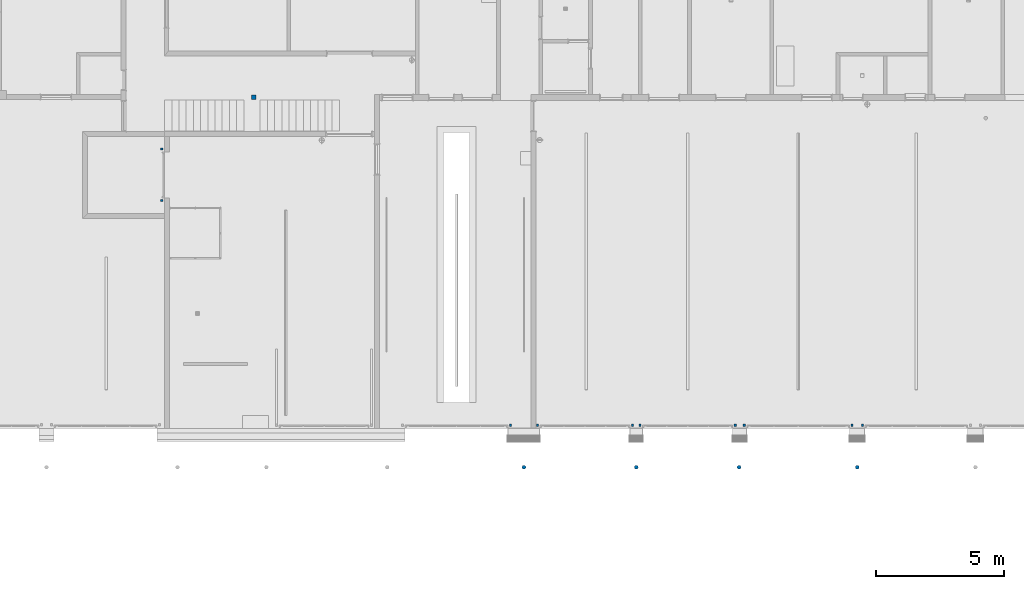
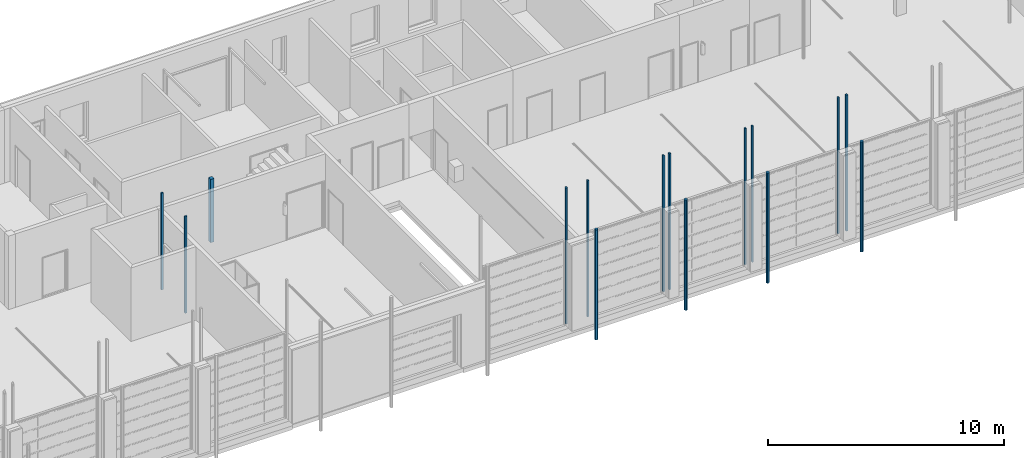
# One storey, part 4 of 112: 15 columns.
"""IFC2X3 building model written with IfcOpenShell, lengths in millimetres."""

from ifc_helpers import new_model, entity, si_unit, converted_unit, derived_unit, money_unit, direction, frame, origin_with_axes, origin_2d_with_axis, place, context, subcontext, project, spatial, rectangle, circle, extrude, material, type_object, element, save


model = new_model("IFC2X3")

# Units and contexts
model_context = context("Model", 3, precision=0.01, world=origin_with_axes(), true_north=direction((0.0, 1.0)))
body_context = subcontext(model_context, "Body", "Model", "MODEL_VIEW")
ifc_project = project(units=[si_unit("LENGTHUNIT", "METRE", prefix="MILLI"), si_unit("AREAUNIT", "SQUARE_METRE"), si_unit("VOLUMEUNIT", "CUBIC_METRE"), converted_unit("PLANEANGLEUNIT", "DEGREE", entity("IfcPlaneAngleMeasure", 0.0174532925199), si_unit("PLANEANGLEUNIT", "RADIAN"), dimensions=[0, 0, 0, 0, 0, 0, 0]), si_unit("SOLIDANGLEUNIT", "STERADIAN"), money_unit("EUR"), converted_unit("TIMEUNIT", "Year", entity("IfcTimeMeasure", 31556926.0), si_unit("TIMEUNIT", "SECOND"), dimensions=[0, 0, 1, 0, 0, 0, 0]), si_unit("MASSUNIT", "GRAM", prefix="KILO"), si_unit("THERMODYNAMICTEMPERATUREUNIT", "DEGREE_CELSIUS"), si_unit("LUMINOUSINTENSITYUNIT", "LUMEN"), si_unit("ENERGYUNIT", "JOULE", prefix="MEGA"), derived_unit("THERMALCONDUCTANCEUNIT", [(si_unit("POWERUNIT", "WATT"), 1), (si_unit("LENGTHUNIT", "METRE"), -1), (si_unit("THERMODYNAMICTEMPERATUREUNIT", "KELVIN"), -1)]), derived_unit("SPECIFICHEATCAPACITYUNIT", [(si_unit("ENERGYUNIT", "JOULE"), 1), (si_unit("MASSUNIT", "GRAM", prefix="KILO"), -1), (si_unit("THERMODYNAMICTEMPERATUREUNIT", "KELVIN"), -1)]), derived_unit("MASSDENSITYUNIT", [(si_unit("MASSUNIT", "GRAM", prefix="KILO"), 1), (si_unit("VOLUMEUNIT", "CUBIC_METRE"), -1)])], contexts=[model_context])

# Site, building, storey
site_placement = place(None, origin_with_axes())
site = spatial("IfcSite", under=ifc_project, at=site_placement, Name="Politse- ja Piirivalveameti ning Päästeameti ühishoone", CompositionType="ELEMENT")
building_placement = place(site_placement, origin_with_axes())
building = spatial("IfcBuilding", under=site, at=building_placement, Name="Politse- ja Piirivalveameti ning Päästeameti ühishoone", CompositionType="ELEMENT")
storey_placement = place(building_placement, origin_with_axes())
storey = spatial("IfcBuildingStorey", under=building, at=storey_placement, Name="Esimene korrus", CompositionType="ELEMENT", Elevation=0.0)

# Columns
ifc_material_1 = material(Name="KON-00_GENEERILINE - KONSTRUKTSIOON")
column_type_1 = type_object("IfcColumnType", Name="KON-00_GENEERILINE - KONSTRUKTSIOON D150", PredefinedType="COLUMN")
for number, where, z_axis, x_axis, name in (
    (1, (45360.5308285, -1510.44069478, 0.0), (0.0, 0.0, 1.0), (1.0, 0.0, 0.0), "POST"),
    (2, (40760.5238007, -1510.44069478, 0.0), (0.0, 0.0, 1.0), (1.0, 0.0, 0.0), "POST"),
    (3, (36760.117689, -1510.44069478, 0.0), (0.0, 0.0, 1.0), (1.0, 0.0, 0.0), "POST"),
    (4, (32384.9985258, -1510.44069478, 0.0), (0.0, 0.0, 1.0), (1.0, 0.0, 0.0), "POST"),
):
    element("IfcColumn", number, at=place(storey_placement, frame(where, z_axis=z_axis, x_axis=x_axis)), inside=storey, type_object=column_type_1, material=ifc_material_1, Name=name, ObjectType="COLUMN", context=body_context, shape_type="SweptSolid", body=[
        extrude(circle(Radius=75.0, at=origin_2d_with_axis()), origin_with_axes(), (0.0, 0.0, 1.0), 5700.0),
    ])
ifc_material_2 = material(Name="ET-02_Raudbetoon - Toode")
column_type_2 = type_object("IfcColumnType", Name="ET-02_Raudbetoon - Toode 180 x 180", PredefinedType="COLUMN")
column_1_placement = place(storey_placement, frame((21870.0260395, 12894.9721217, 0.0), z_axis=(0.0, 0.0, 1.0), x_axis=(1.0, 0.0, 0.0)))
element("IfcColumn", 5, at=column_1_placement, inside=storey, type_object=column_type_2, material=ifc_material_2, Name="POST", ObjectType="COLUMN", context=body_context, shape_type="SweptSolid", body=[
    extrude(rectangle(XDim=180.004972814, YDim=180.000024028, at=origin_2d_with_axis()), origin_with_axes(), (0.0, 0.0, 1.0), 3280.0),
])
column_type_3 = type_object("IfcColumnType", Name="KON-00_GENEERILINE - KONSTRUKTSIOON 80 x 100", PredefinedType="COLUMN")
for number, where, z_axis, x_axis, name in (
    (6, (31859.7054661, 130.739431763, 0.0), (0.0, 0.0, 1.0), (1.0, 0.0, 0.0), "POST"),
    (7, (32909.505347, 130.739431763, 0.0), (0.0, 0.0, 1.0), (1.0, 0.0, 0.0), "POST"),
    (8, (36609.7115773, 130.739431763, 0.0), (0.0, 0.0, 1.0), (1.0, 0.0, 0.0), "POST"),
    (9, (40960.3210844, 130.739431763, 0.0), (0.0, 0.0, 1.0), (1.0, 0.0, 0.0), "POST"),
    (10, (45160.5273146, 130.739431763, 0.0), (0.0, 0.0, 1.0), (1.0, 0.0, 0.0), "POST"),
    (11, (36909.9114587, 130.739431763, 0.0), (0.0, 0.0, 1.0), (1.0, 0.0, 0.0), "POST"),
    (12, (40610.117689, 130.739431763, 0.0), (0.0, 0.0, 1.0), (1.0, 0.0, 0.0), "POST"),
    (13, (45560.3281121, 130.739431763, 0.0), (0.0, 0.0, 1.0), (1.0, 0.0, 0.0), "POST"),
):
    element("IfcColumn", number, at=place(storey_placement, frame(where, z_axis=z_axis, x_axis=x_axis)), inside=storey, type_object=column_type_3, material=ifc_material_1, Name=name, ObjectType="COLUMN", context=body_context, shape_type="SweptSolid", body=[
        extrude(rectangle(XDim=80.0, YDim=100.0, at=origin_2d_with_axis()), origin_with_axes(), (0.0, 0.0, 1.0), 7040.0),
    ])
column_2_placement = place(storey_placement, frame((18290.7255418, 10870.1399943, 0.0), z_axis=(0.0, 0.0, 1.0), x_axis=(0.0, -1.0, 0.0)))
element("IfcColumn", 14, at=column_2_placement, inside=storey, type_object=column_type_3, material=ifc_material_1, Name="POST", ObjectType="COLUMN", context=body_context, shape_type="SweptSolid", body=[
    extrude(rectangle(XDim=80.0, YDim=100.0, at=origin_2d_with_axis()), origin_with_axes(), (0.0, 0.0, 1.0), 4999.61486031),
])
column_3_placement = place(storey_placement, frame((18290.7255418, 8870.13999433, 0.0), z_axis=(0.0, 0.0, 1.0), x_axis=(0.0, -1.0, 0.0)))
element("IfcColumn", 15, at=column_3_placement, inside=storey, type_object=column_type_3, material=ifc_material_1, Name="POST", ObjectType="COLUMN", context=body_context, shape_type="SweptSolid", body=[
    extrude(rectangle(XDim=80.0, YDim=100.0, at=origin_2d_with_axis()), frame((0.0, 0.0, 0.0), z_axis=(0.0, 0.0, -1.0), x_axis=(-1.0, 0.0, 0.0)), (0.0, 0.0, -1.0), 4999.61486031),
])

save(model, "model.ifc")
